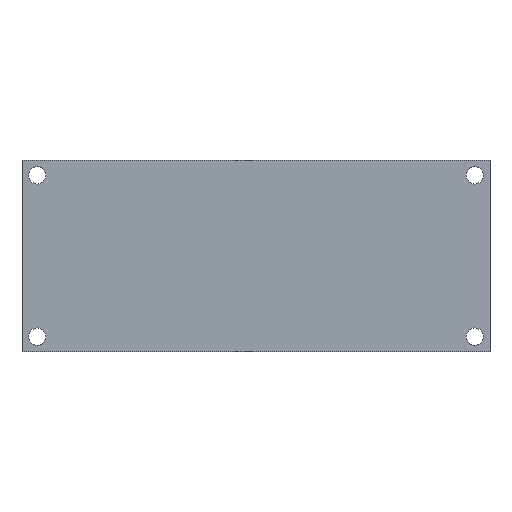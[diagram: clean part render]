
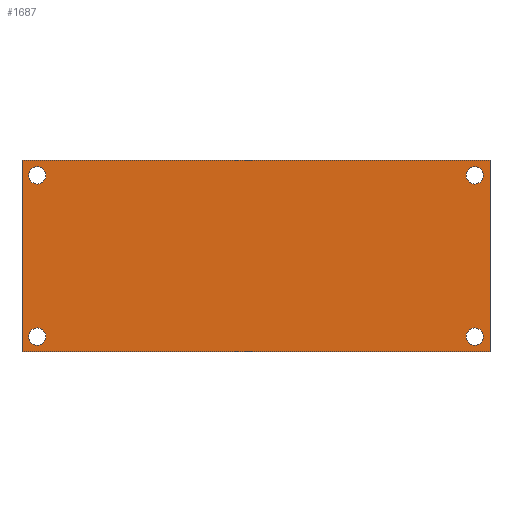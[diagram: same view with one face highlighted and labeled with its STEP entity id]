
A CAD part, front view. The second image highlights one B-rep face of the part: STEP entity #1687.
In plain terms, the highlighted planar face has unit normal (0, -1, 0).
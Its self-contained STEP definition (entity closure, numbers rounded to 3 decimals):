
#30 = CARTESIAN_POINT ( 'NONE',  ( 8., -25., 46.5 ) ) ;
#134 = VECTOR ( 'NONE', #10665, 1000. ) ;
#263 = LINE ( 'NONE', #487, #134 ) ;
#278 = FACE_BOUND ( 'NONE', #2625, .T. ) ;
#400 = CIRCLE ( 'NONE', #4867, 4.5 ) ;
#473 = CARTESIAN_POINT ( 'NONE',  ( 244., -25., 50. ) ) ;
#487 = CARTESIAN_POINT ( 'NONE',  ( 244., -25., -50. ) ) ;
#527 = EDGE_LOOP ( 'NONE', ( #8104, #7942, #7373, #7248 ) ) ;
#648 = CIRCLE ( 'NONE', #3772, 4.5 ) ;
#910 = CIRCLE ( 'NONE', #4305, 4.5 ) ;
#926 = DIRECTION ( 'NONE',  ( 0., 0., -1. ) ) ;
#1017 = DIRECTION ( 'NONE',  ( 0., 1., 0. ) ) ;
#1335 = AXIS2_PLACEMENT_3D ( 'NONE', #8106, #3042, #8875 ) ;
#1350 = DIRECTION ( 'NONE',  ( -1., 0., 0. ) ) ;
#1505 = AXIS2_PLACEMENT_3D ( 'NONE', #2214, #2312, #2348 ) ;
#1636 = EDGE_CURVE ( 'NONE', #3872, #9064, #7290, .T. ) ;
#1687 = ADVANCED_FACE ( 'NONE', ( #278, #8203, #4738, #7664, #7159 ), #10136, .F. ) ;
#1693 = CARTESIAN_POINT ( 'NONE',  ( 244., -25., -50. ) ) ;
#1948 = VECTOR ( 'NONE', #3775, 1000. ) ;
#2097 = EDGE_LOOP ( 'NONE', ( #8564, #8474 ) ) ;
#2214 = CARTESIAN_POINT ( 'NONE',  ( 236., -25., -42. ) ) ;
#2312 = DIRECTION ( 'NONE',  ( 0., 1., 0. ) ) ;
#2348 = DIRECTION ( 'NONE',  ( 0., 0., 1. ) ) ;
#2444 = EDGE_CURVE ( 'NONE', #7901, #10419, #263, .T. ) ;
#2625 = EDGE_LOOP ( 'NONE', ( #9529, #9137 ) ) ;
#2680 = EDGE_CURVE ( 'NONE', #5207, #8310, #6937, .T. ) ;
#2729 = DIRECTION ( 'NONE',  ( 0., 1., 0. ) ) ;
#2767 = CARTESIAN_POINT ( 'NONE',  ( 8., -25., 42. ) ) ;
#3042 = DIRECTION ( 'NONE',  ( 0., 1., 0. ) ) ;
#3150 = EDGE_LOOP ( 'NONE', ( #8368, #8232 ) ) ;
#3463 = CARTESIAN_POINT ( 'NONE',  ( 244., -25., 50. ) ) ;
#3516 = CARTESIAN_POINT ( 'NONE',  ( 8., -25., -42. ) ) ;
#3544 = CIRCLE ( 'NONE', #4660, 4.5 ) ;
#3584 = CARTESIAN_POINT ( 'NONE',  ( 8., -25., -37.5 ) ) ;
#3628 = DIRECTION ( 'NONE',  ( 0., 0., 1. ) ) ;
#3772 = AXIS2_PLACEMENT_3D ( 'NONE', #7806, #2729, #8593 ) ;
#3775 = DIRECTION ( 'NONE',  ( 0., 0., -1. ) ) ;
#3872 = VERTEX_POINT ( 'NONE', #8601 ) ;
#4121 = CARTESIAN_POINT ( 'NONE',  ( 8., -25., 42. ) ) ;
#4189 = LINE ( 'NONE', #473, #10447 ) ;
#4281 = VERTEX_POINT ( 'NONE', #10001 ) ;
#4305 = AXIS2_PLACEMENT_3D ( 'NONE', #6055, #1017, #6930 ) ;
#4311 = EDGE_CURVE ( 'NONE', #8007, #7525, #400, .T. ) ;
#4331 = EDGE_CURVE ( 'NONE', #8310, #5207, #910, .T. ) ;
#4347 = DIRECTION ( 'NONE',  ( 0., 0., 1. ) ) ;
#4362 = CARTESIAN_POINT ( 'NONE',  ( 244., -25., 50. ) ) ;
#4379 = EDGE_CURVE ( 'NONE', #9064, #3872, #648, .T. ) ;
#4392 = EDGE_CURVE ( 'NONE', #6787, #9329, #6604, .T. ) ;
#4399 = CARTESIAN_POINT ( 'NONE',  ( 8., -25., -46.5 ) ) ;
#4618 = EDGE_CURVE ( 'NONE', #9329, #6787, #3544, .T. ) ;
#4660 = AXIS2_PLACEMENT_3D ( 'NONE', #4121, #9867, #4939 ) ;
#4681 = EDGE_CURVE ( 'NONE', #6490, #7901, #6723, .T. ) ;
#4700 = CARTESIAN_POINT ( 'NONE',  ( 236., -25., -37.5 ) ) ;
#4713 = VECTOR ( 'NONE', #926, 1000. ) ;
#4738 = FACE_BOUND ( 'NONE', #2097, .T. ) ;
#4867 = AXIS2_PLACEMENT_3D ( 'NONE', #3516, #9305, #4347 ) ;
#4939 = DIRECTION ( 'NONE',  ( 0., 0., 1. ) ) ;
#5207 = VERTEX_POINT ( 'NONE', #6134 ) ;
#6055 = CARTESIAN_POINT ( 'NONE',  ( 236., -25., -42. ) ) ;
#6132 = CARTESIAN_POINT ( 'NONE',  ( 236., -25., 46.5 ) ) ;
#6134 = CARTESIAN_POINT ( 'NONE',  ( 236., -25., -46.5 ) ) ;
#6228 = EDGE_CURVE ( 'NONE', #4281, #10419, #8190, .T. ) ;
#6291 = CARTESIAN_POINT ( 'NONE',  ( 0., -25., -50. ) ) ;
#6490 = VERTEX_POINT ( 'NONE', #4362 ) ;
#6604 = CIRCLE ( 'NONE', #8463, 4.5 ) ;
#6723 = LINE ( 'NONE', #3463, #4713 ) ;
#6787 = VERTEX_POINT ( 'NONE', #30 ) ;
#6866 = EDGE_LOOP ( 'NONE', ( #9066, #8997 ) ) ;
#6930 = DIRECTION ( 'NONE',  ( 0., 0., 1. ) ) ;
#6937 = CIRCLE ( 'NONE', #1505, 4.5 ) ;
#7159 = FACE_OUTER_BOUND ( 'NONE', #527, .T. ) ;
#7248 = ORIENTED_EDGE ( 'NONE', *, *, #10515, .T. ) ;
#7290 = CIRCLE ( 'NONE', #9306, 4.5 ) ;
#7373 = ORIENTED_EDGE ( 'NONE', *, *, #4681, .F. ) ;
#7387 = CARTESIAN_POINT ( 'NONE',  ( 8., -25., 37.5 ) ) ;
#7525 = VERTEX_POINT ( 'NONE', #4399 ) ;
#7664 = FACE_BOUND ( 'NONE', #3150, .T. ) ;
#7806 = CARTESIAN_POINT ( 'NONE',  ( 236., -25., 42. ) ) ;
#7901 = VERTEX_POINT ( 'NONE', #1693 ) ;
#7942 = ORIENTED_EDGE ( 'NONE', *, *, #2444, .F. ) ;
#8007 = VERTEX_POINT ( 'NONE', #3584 ) ;
#8104 = ORIENTED_EDGE ( 'NONE', *, *, #6228, .T. ) ;
#8106 = CARTESIAN_POINT ( 'NONE',  ( 8., -25., -42. ) ) ;
#8190 = LINE ( 'NONE', #8758, #1948 ) ;
#8203 = FACE_BOUND ( 'NONE', #6866, .T. ) ;
#8232 = ORIENTED_EDGE ( 'NONE', *, *, #4618, .T. ) ;
#8267 = AXIS2_PLACEMENT_3D ( 'NONE', #10057, #10154, #10170 ) ;
#8310 = VERTEX_POINT ( 'NONE', #4700 ) ;
#8368 = ORIENTED_EDGE ( 'NONE', *, *, #4392, .T. ) ;
#8463 = AXIS2_PLACEMENT_3D ( 'NONE', #2767, #8620, #3628 ) ;
#8474 = ORIENTED_EDGE ( 'NONE', *, *, #1636, .T. ) ;
#8564 = ORIENTED_EDGE ( 'NONE', *, *, #4379, .T. ) ;
#8593 = DIRECTION ( 'NONE',  ( 0., 0., 1. ) ) ;
#8601 = CARTESIAN_POINT ( 'NONE',  ( 236., -25., 37.5 ) ) ;
#8620 = DIRECTION ( 'NONE',  ( 0., 1., 0. ) ) ;
#8758 = CARTESIAN_POINT ( 'NONE',  ( 0., -25., 50. ) ) ;
#8875 = DIRECTION ( 'NONE',  ( 0., 0., 1. ) ) ;
#8997 = ORIENTED_EDGE ( 'NONE', *, *, #2680, .T. ) ;
#9064 = VERTEX_POINT ( 'NONE', #6132 ) ;
#9066 = ORIENTED_EDGE ( 'NONE', *, *, #4331, .T. ) ;
#9137 = ORIENTED_EDGE ( 'NONE', *, *, #9259, .T. ) ;
#9259 = EDGE_CURVE ( 'NONE', #7525, #8007, #9433, .T. ) ;
#9305 = DIRECTION ( 'NONE',  ( 0., 1., 0. ) ) ;
#9306 = AXIS2_PLACEMENT_3D ( 'NONE', #9549, #9572, #9603 ) ;
#9329 = VERTEX_POINT ( 'NONE', #7387 ) ;
#9433 = CIRCLE ( 'NONE', #1335, 4.5 ) ;
#9529 = ORIENTED_EDGE ( 'NONE', *, *, #4311, .T. ) ;
#9549 = CARTESIAN_POINT ( 'NONE',  ( 236., -25., 42. ) ) ;
#9572 = DIRECTION ( 'NONE',  ( 0., 1., 0. ) ) ;
#9603 = DIRECTION ( 'NONE',  ( 0., 0., 1. ) ) ;
#9867 = DIRECTION ( 'NONE',  ( 0., 1., 0. ) ) ;
#10001 = CARTESIAN_POINT ( 'NONE',  ( 0., -25., 50. ) ) ;
#10057 = CARTESIAN_POINT ( 'NONE',  ( 244., -25., 50. ) ) ;
#10136 = PLANE ( 'NONE',  #8267 ) ;
#10154 = DIRECTION ( 'NONE',  ( 0., 1., 0. ) ) ;
#10170 = DIRECTION ( 'NONE',  ( 0., 0., 1. ) ) ;
#10419 = VERTEX_POINT ( 'NONE', #6291 ) ;
#10447 = VECTOR ( 'NONE', #1350, 1000. ) ;
#10515 = EDGE_CURVE ( 'NONE', #6490, #4281, #4189, .T. ) ;
#10665 = DIRECTION ( 'NONE',  ( -1., 0., 0. ) ) ;
